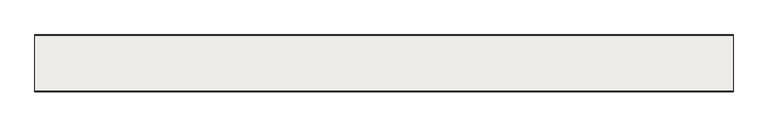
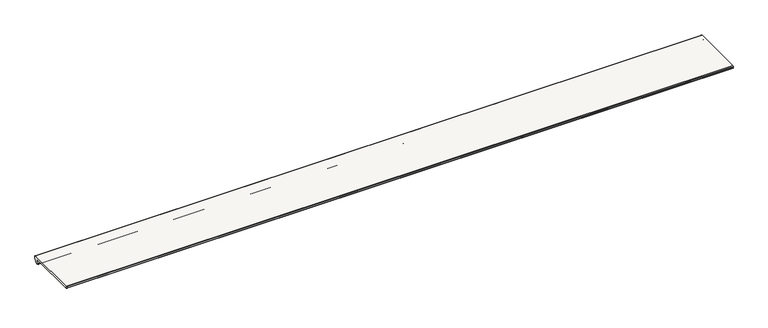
"""IFC4 building model written with IfcOpenShell, lengths in millimetres: slab geometry, ROSA GRES_J62 : Pieza J62_Tao_Beige_Anti-Slip."""

from ifc_helpers import new_model, si_unit, frame, origin, place, context, project, spatial, polyline, circle_curve, source, transform, mapped, element, save
from ifc_brep_helpers import plane_surface, cylinder_surface, revolved_surface, advanced_brep


def slab_10a1814d(model_context):
    return source(origin(), model_context, "Body", "AdvancedBrep", [
        advanced_brep(
        [(3884.7742864, -317.0, 2.5), (3884.7742864, -314.5, 0.0), (3884.7742864, -29.6363327, 0.0), (3884.7742864, -24.5931401, -10.7276172), (3884.7742864, -29.4411632, -18.2354274), (3884.7742864, -29.4411632, -24.4017055), (3884.7742864, -26.7240304, -27.1188383), (3884.7742864, -20.3835268, -27.1188383), (3884.7742864, -19.4823107, -26.1230058), (3884.7742864, -18.5721049, -25.1262743), (3884.7742864, -17.666394, -25.1262743), (3884.7742864, -14.760096, -23.1626329), (3884.7742864, -0.7963935, -2.84429), (3884.7742864, 0.0, -0.2793766), (3884.7742864, 0.0, 8.2984975), (3884.7742864, -3.9876034, 12.7946269), (3884.7742864, -314.2818333, 12.7946269), (3884.7742864, -316.9989661, 10.0774941), (0.0, -317.0, 2.5), (0.0, -317.0, 10.0774941), (0.0, -314.2818333, 12.7946269), (0.0, -3.9876034, 12.7946269), (0.0, 0.0, 8.2984975), (0.0, 0.0, -0.2793766), (0.0, -0.7963935, -2.84429), (0.0, -14.760096, -23.1626329), (0.0, -17.666394, -25.1262743), (0.0, -18.5721049, -25.1262743), (0.0, -19.473321, -26.1221068), (0.0, -20.3835268, -27.1188383), (0.0, -26.7240304, -27.1188383), (0.0, -29.4411632, -24.4017055), (0.0, -29.4411632, -18.2354274), (0.0, -24.5931401, -10.7276172), (0.0, -29.6363327, 0.0), (0.0, -314.5, 0.0)],
        [
            (0, 1, circle_curve(frame((3884.7742864, -314.5, 2.5), z_axis=(1.0, 0.0, 0.0), x_axis=(0.0, -1.0, 0.0)), 2.5)),
            (1, 2),
            (2, 3, circle_curve(frame((3884.7742864, -30.1604402, -6.7956336), z_axis=(-1.0, 0.0, 0.0), x_axis=(0.0, 0.5768912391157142, 0.8168209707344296)), 6.8158144)),
            (3, 4),
            (4, 5),
            (5, 6, circle_curve(frame((3884.7742864, -26.7240304, -24.4017055), z_axis=(1.0, 0.0, 0.0), x_axis=(0.0, -1.0, 0.0)), 2.7171328)),
            (6, 7),
            (7, 8, circle_curve(frame((3884.7742864, -20.3835268, -26.2131274), z_axis=(1.0, 0.0, 0.0), x_axis=(0.0, 0.0995037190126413, -0.9950371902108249)), 0.9057109)),
            (8, 9, circle_curve(frame((3884.7742864, -18.5721049, -26.0319852), z_axis=(-1.0, 0.0, 0.0), x_axis=(0.0, -1.0, 0.0)), 0.9057109)),
            (9, 10),
            (10, 11, circle_curve(frame((3884.7742864, -18.9818017, -20.0468365), z_axis=(1.0, 0.0, 0.0), x_axis=(0.0, -0.5938246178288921, -0.804594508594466)), 5.2469978)),
            (11, 12),
            (12, 13, circle_curve(frame((3884.7742864, -4.5285547, -0.2793766), z_axis=(1.0, 0.0, 0.0), x_axis=(0.0, 0.0, -1.0)), 4.5285547)),
            (13, 14),
            (14, 15, circle_curve(frame((3884.7742864, -4.5285547, 8.2984975), z_axis=(1.0, 0.0, 0.0), x_axis=(0.0, 0.9928398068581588, -0.11945341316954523)), 4.5285547)),
            (15, 16),
            (16, 17, circle_curve(frame((3884.7742864, -314.2818333, 10.0774941), z_axis=(1.0, 0.0, 0.0), x_axis=(0.0, 0.0, 1.0)), 2.7171328)),
            (17, 0),
            (18, 19),
            (19, 20, circle_curve(frame((0.0, -314.2818333, 10.0774941), z_axis=(-1.0, 0.0, 0.0), x_axis=(0.0, 0.0, 1.0)), 2.7171328)),
            (20, 21),
            (21, 22, circle_curve(frame((0.0, -4.5285547, 8.2984975), z_axis=(-1.0, 0.0, 0.0), x_axis=(0.0, 0.9928398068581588, -0.11945341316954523)), 4.5285547)),
            (22, 23),
            (23, 24, circle_curve(frame((0.0, -4.5285547, -0.2793766), z_axis=(-1.0, 0.0, 0.0), x_axis=(0.0, 0.0, -1.0)), 4.5285547)),
            (24, 25),
            (25, 26, circle_curve(frame((0.0, -18.9818017, -20.0468365), z_axis=(-1.0, 0.0, 0.0), x_axis=(0.0, -0.5938246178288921, -0.804594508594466)), 5.2469978)),
            (26, 27),
            (27, 28, circle_curve(frame((0.0, -18.5721049, -26.0319852), z_axis=(1.0, 0.0, 0.0), x_axis=(0.0, -1.0, 0.0)), 0.9057109)),
            (28, 29, circle_curve(frame((0.0, -20.3835268, -26.2131274), z_axis=(-1.0, 0.0, 0.0), x_axis=(0.0, 0.0995037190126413, -0.9950371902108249)), 0.9057109)),
            (29, 30),
            (30, 31, circle_curve(frame((0.0, -26.7240304, -24.4017055), z_axis=(-1.0, 0.0, 0.0), x_axis=(0.0, -1.0, 0.0)), 2.7171328)),
            (31, 32),
            (32, 33),
            (33, 34, circle_curve(frame((0.0, -30.1604402, -6.7956336), z_axis=(1.0, 0.0, 0.0), x_axis=(0.0, 0.5768912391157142, 0.8168209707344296)), 6.8158144)),
            (34, 35),
            (35, 18, circle_curve(frame((0.0, -314.5, 2.5), z_axis=(-1.0, 0.0, 0.0), x_axis=(0.0, -1.0, 0.0)), 2.5)),
            (1, 35),
            (34, 2),
            (0, 18),
            (17, 19),
            (16, 20),
            (15, 21),
            (14, 22),
            (13, 23),
            (12, 24),
            (11, 25),
            (10, 26),
            (9, 27),
            (8, 28),
            (7, 29),
            (6, 30),
            (5, 31),
            (4, 32),
            (3, 33),
        ],
        [
            plane_surface(frame((3884.7742864, -317.0, 10.0774941), z_axis=(1.0, 0.0, 0.0), x_axis=(0.0, 0.0, 1.0))),
            plane_surface(frame((0.0, -317.0, 10.0774941), z_axis=(-1.0, 0.0, 0.0), x_axis=(0.0, 0.0, -1.0))),
            plane_surface(frame((3884.7742864, -172.0681664, 0.0), z_axis=(0.0, 0.0, -1.0), x_axis=(0.0, -1.0, 0.0))),
            cylinder_surface(frame((3884.7742864, -314.5, 2.5), z_axis=(-1.0, 0.0, 0.0), x_axis=(0.0, -1.0, 0.0)), 2.5),
            plane_surface(frame((3884.7742864, -317.0, 6.288747), z_axis=(0.0, -1.0, 0.0), x_axis=(0.0, 0.0, 1.0))),
            cylinder_surface(frame((3884.7742864, -314.2818333, 10.0774941), z_axis=(-1.0, 0.0, 0.0), x_axis=(0.0, 0.0, 1.0)), 2.7171328),
            plane_surface(frame((3884.7742864, -159.1347183, 12.7946269), z_axis=(0.0, 0.0, 1.0), x_axis=(0.0, 1.0, 0.0))),
            cylinder_surface(frame((3884.7742864, -4.5285547, 8.2984975), z_axis=(-1.0, 0.0, 0.0), x_axis=(0.0, 0.9928398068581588, -0.11945341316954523)), 4.5285547),
            plane_surface(frame((3884.7742864, 0.0, 4.0095604), z_axis=(0.0, 1.0, 0.0), x_axis=(0.0, 0.0, -1.0))),
            cylinder_surface(frame((3884.7742864, -4.5285547, -0.2793766), z_axis=(-1.0, 0.0, 0.0), x_axis=(0.0, 0.0, -1.0)), 4.5285547),
            plane_surface(frame((3884.7742864, -7.7782448, -13.0034614), z_axis=(0.0, 0.8241395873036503, -0.5663867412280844), x_axis=(0.0, -0.5663867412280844, -0.8241395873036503))),
            cylinder_surface(frame((3884.7742864, -18.9818017, -20.0468365), z_axis=(-1.0, 0.0, 0.0), x_axis=(0.0, -0.5938246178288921, -0.804594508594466)), 5.2469978),
            plane_surface(frame((3884.7742864, -18.1192494, -25.1262743), z_axis=(0.0, 4.6418198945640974e-11, -1.0), x_axis=(0.0, -1.0, -4.6418198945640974e-11))),
            revolved_surface(polyline([(0.0, -19.4778158, -26.0319852), (3884.7742864, -19.4778158, -26.0319852)]), (3884.7742864, -18.5721049, -26.0319852), (-1.0, 0.0, 0.0)),
            cylinder_surface(frame((3884.7742864, -20.3835268, -26.2131274), z_axis=(-1.0, 0.0, 0.0), x_axis=(0.0, 0.0995037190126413, -0.9950371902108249)), 0.9057109),
            plane_surface(frame((3884.7742864, -23.5537786, -27.1188383), z_axis=(0.0, 7.1383070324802e-12, -1.0), x_axis=(0.0, -1.0, -7.1383070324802e-12))),
            cylinder_surface(frame((3884.7742864, -26.7240304, -24.4017055), z_axis=(-1.0, 0.0, 0.0), x_axis=(0.0, -1.0, 0.0)), 2.7171328),
            plane_surface(frame((3884.7742864, -29.4411632, -21.3185665), z_axis=(0.0, -1.0, 0.0), x_axis=(0.0, 0.0, 1.0))),
            plane_surface(frame((3884.7742864, -27.0171517, -14.4815223), z_axis=(0.0, -0.8400786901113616, 0.5424645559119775), x_axis=(0.0, 0.5424645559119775, 0.8400786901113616))),
            revolved_surface(polyline([(0.0, -26.228456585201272, -1.2283334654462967), (3884.7742864, -26.228456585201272, -1.2283334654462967)]), (3884.7742864, -30.1604402, -6.7956336), (-1.0, 0.0, 0.0)),
        ],
        [
            (0, [[1, 2, 3, 4, 5, 6, 7, 8, 9, 10, 11, 12, 13, 14, 15, 16, 17, 18]]),
            (1, [[19, 20, 21, 22, 23, 24, 25, 26, 27, 28, 29, 30, 31, 32, 33, 34, 35, 36]]),
            (2, [[37, -35, 38, -2]]),
            (3, [[39, -36, -37, -1]]),
            (4, [[40, -19, -39, -18]]),
            (5, [[41, -20, -40, -17]]),
            (6, [[42, -21, -41, -16]]),
            (7, [[43, -22, -42, -15]]),
            (8, [[44, -23, -43, -14]]),
            (9, [[45, -24, -44, -13]]),
            (10, [[46, -25, -45, -12]]),
            (11, [[47, -26, -46, -11]]),
            (12, [[48, -27, -47, -10]]),
            (13, [[49, -28, -48, -9]]),
            (14, [[50, -29, -49, -8]]),
            (15, [[51, -30, -50, -7]]),
            (16, [[52, -31, -51, -6]]),
            (17, [[53, -32, -52, -5]]),
            (18, [[54, -33, -53, -4]]),
            (19, [[-38, -34, -54, -3]]),
        ],
    ),
    ])


if __name__ == "__main__":
    model = new_model("IFC4")
    model_context = context("Model", 3, world=origin())
    ifc_project = project(units=[si_unit("LENGTHUNIT", "METRE", prefix="MILLI")], contexts=[model_context])
    site = spatial("IfcSite", under=ifc_project)
    building = spatial("IfcBuilding", under=site)
    placement = place(None, origin())
    slab_shape = slab_10a1814d(model_context)
    element("IfcSlab", 1, ObjectType="ROSA GRES_J62 : Pieza J62_Tao_Beige_Anti-Slip", at=placement, inside=building, context=model_context, shape_type="MappedRepresentation", body=[
        mapped(slab_shape, transform((0.0, 0.0, 0.0), x_axis=(1.0, 0.0, 0.0), y_axis=(0.0, 1.0, 0.0), z_axis=(0.0, 0.0, 1.0))),
    ])
    save(model, "model.ifc")
